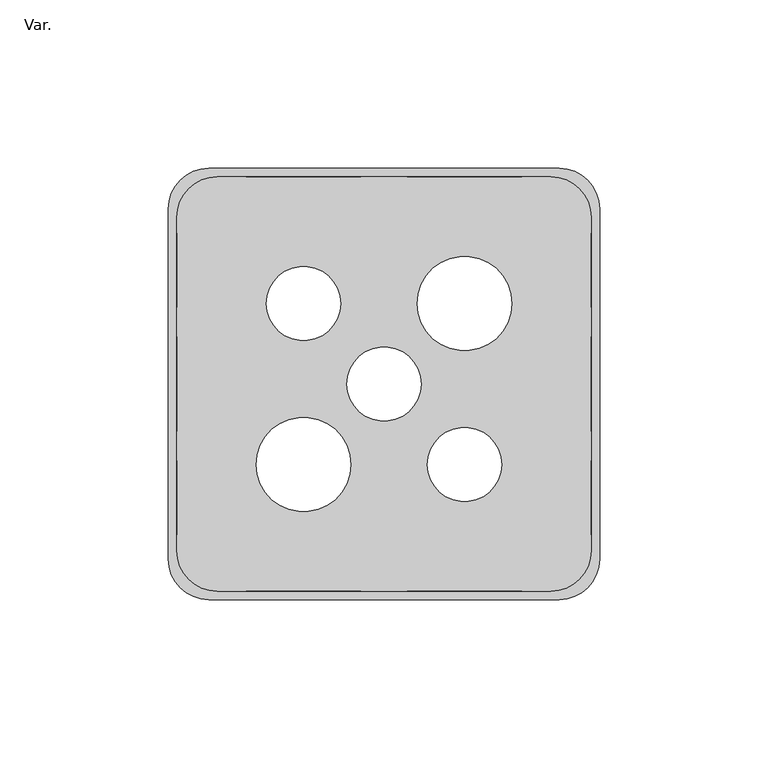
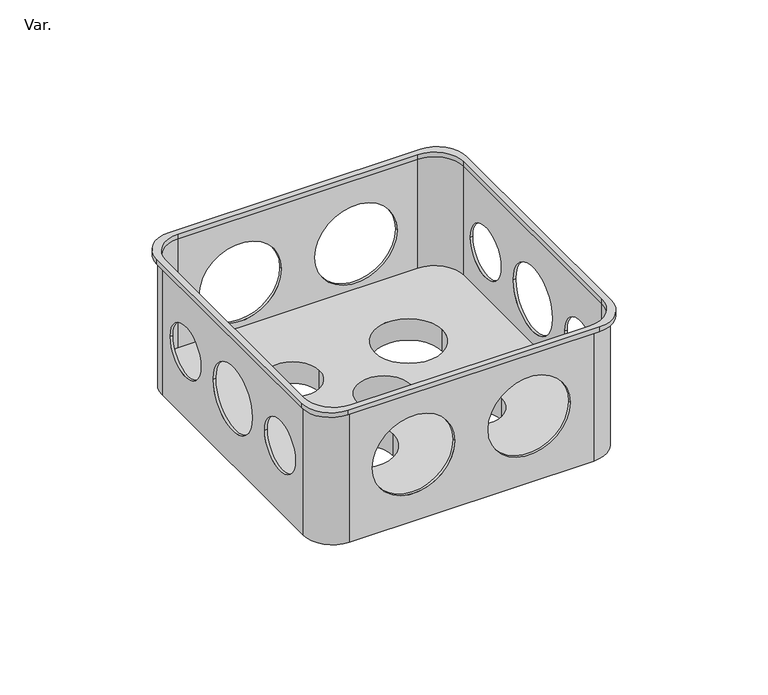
"""IFC4 building model written with IfcOpenShell, lengths in millimetres: cable carrier fitting geometry, PlastigamaWavin_Unionesdetubo_ConduitCajaCuadrada5x5 : Var.."""

from ifc_helpers import new_model, si_unit, point, frame, frame_2d, origin, place, context, project, spatial, polyline, circle_curve, trimmed, segment, composite_curve, outline, extrude, source, transform, mapped, element, save
from ifc_brep_helpers import plane_surface, cylinder_surface, revolved_surface, advanced_brep


def var_c12a9b82(model_context):
    return source(origin(), model_context, "Body", "SolidModel", [
        extrude(outline(composite_curve([segment(polyline([(-64.0, -52.0), (-64.0, 52.0)]), True, "CONTINUOUS"), segment(trimmed(circle_curve(frame_2d((-52.0, 52.0)), 12.0), [point((-64.0, 52.0))], [point((-52.0, 64.0))], False, "CARTESIAN"), True, "CONTINUOUS"), segment(polyline([(-52.0, 64.0), (52.0, 64.0)]), True, "CONTINUOUS"), segment(trimmed(circle_curve(frame_2d((52.0, 52.0)), 12.0), [point((52.0, 64.0))], [point((64.0, 52.0))], False, "CARTESIAN"), True, "CONTINUOUS"), segment(polyline([(64.0, 52.0), (64.0, -52.0)]), True, "CONTINUOUS"), segment(trimmed(circle_curve(frame_2d((52.0, -52.0)), 12.0), [point((64.0, -52.0))], [point((52.0, -64.0))], False, "CARTESIAN"), True, "CONTINUOUS"), segment(polyline([(52.0, -64.0), (-52.0, -64.0)]), True, "CONTINUOUS"), segment(trimmed(circle_curve(frame_2d((-52.0, -52.0)), 12.0), [point((-52.0, -64.0))], [point((-64.0, -52.0))], False, "CARTESIAN"), True, "CONTINUOUS")], self_intersect=False), holes=[composite_curve([segment(trimmed(circle_curve(frame_2d((-49.5, -49.5)), 12.0), [point((-61.5, -49.5))], [point((-49.5, -61.5))], True, "CARTESIAN"), True, "CONTINUOUS"), segment(polyline([(-49.5, -61.5), (49.5, -61.5)]), True, "CONTINUOUS"), segment(trimmed(circle_curve(frame_2d((49.5, -49.5)), 12.0), [point((49.5, -61.5))], [point((61.5, -49.5))], True, "CARTESIAN"), True, "CONTINUOUS"), segment(polyline([(61.5, -49.5), (61.5, 49.5)]), True, "CONTINUOUS"), segment(trimmed(circle_curve(frame_2d((49.5, 49.5)), 12.0), [point((61.5, 49.5))], [point((49.5, 61.5))], True, "CARTESIAN"), True, "CONTINUOUS"), segment(polyline([(49.5, 61.5), (-49.5, 61.5)]), True, "CONTINUOUS"), segment(trimmed(circle_curve(frame_2d((-49.5, 49.5)), 12.0), [point((-49.5, 61.5))], [point((-61.5, 49.5))], True, "CARTESIAN"), True, "CONTINUOUS"), segment(polyline([(-61.5, 49.5), (-61.5, -49.5)]), True, "CONTINUOUS")], self_intersect=False)]), frame((0.0, 0.0, 28.5), z_axis=(0.0, 0.0, 1.0), x_axis=(1.0, 0.0, 0.0)), (0.0, 0.0, 1.0), 2.0),
        advanced_brep(
        [(-62.5, -50.5, 28.5), (-50.5, -62.5, 28.5), (50.5, -62.5, 28.5), (62.5, -50.5, 28.5), (62.5, 50.5, 28.5), (50.5, 62.5, 28.5), (-50.5, 62.5, 28.5), (-62.5, 50.5, 28.5), (-49.5, -61.5, 28.5), (-61.5, -49.5, 28.5), (-61.5, 49.5, 28.5), (-49.5, 61.5, 28.5), (49.5, 61.5, 28.5), (61.5, 49.5, 28.5), (61.5, -49.5, 28.5), (49.5, -61.5, 28.5), (-62.5, -50.5, -28.5), (-62.5, 50.5, -28.5), (-50.5, 62.5, -28.5), (50.5, 62.5, -28.5), (62.5, 50.5, -28.5), (62.5, -50.5, -28.5), (50.5, -62.5, -28.5), (-50.5, -62.5, -28.5), (-37.9, -23.9, -28.5), (-9.9, -23.9, -28.5), (12.9, -23.9, -28.5), (34.9, -23.9, -28.5), (9.9, 23.9, -28.5), (37.9, 23.9, -28.5), (-34.9, 23.9, -28.5), (-12.9, 23.9, -28.5), (-11.0, 0.0, -28.5), (11.0, 0.0, -28.5), (-6.9, -62.5, 0.5), (-40.9, -62.5, 0.5), (40.9, -62.5, 0.5), (6.9, -62.5, 0.5), (62.5, -22.8, 0.5), (62.5, -44.8, 0.5), (62.5, 14.0, 0.5), (62.5, -14.0, 0.5), (62.5, 44.8, 0.5), (62.5, 22.8, 0.5), (-40.9, 62.5, 0.5), (-6.9, 62.5, 0.5), (6.9, 62.5, 0.5), (40.9, 62.5, 0.5), (-62.5, -44.8, 0.5), (-62.5, -22.8, 0.5), (-62.5, -14.0, 0.5), (-62.5, 14.0, 0.5), (-62.5, 22.8, 0.5), (-62.5, 44.8, 0.5), (-61.5, -49.5, -19.0915141), (-49.5, -61.5, -19.0915141), (49.5, -61.5, -19.0915141), (61.5, -49.5, -19.0915141), (61.5, 49.5, -19.0915141), (49.5, 61.5, -19.0915141), (-49.5, 61.5, -19.0915141), (-61.5, 49.5, -19.0915141), (-9.9, -23.9, -19.0915141), (-37.9, -23.9, -19.0915141), (34.9, -23.9, -19.0915141), (12.9, -23.9, -19.0915141), (37.9, 23.9, -19.0915141), (9.9, 23.9, -19.0915141), (-12.9, 23.9, -19.0915141), (-34.9, 23.9, -19.0915141), (11.0, 0.0, -19.0915141), (-11.0, 0.0, -19.0915141), (-40.9, -61.5, 0.5), (-6.9, -61.5, 0.5), (6.9, -61.5, 0.5), (40.9, -61.5, 0.5), (61.5, -44.8, 0.5), (61.5, -22.8, 0.5), (61.5, -14.0, 0.5), (61.5, 14.0, 0.5), (61.5, 22.8, 0.5), (61.5, 44.8, 0.5), (-6.9, 61.5, 0.5), (-40.9, 61.5, 0.5), (40.9, 61.5, 0.5), (6.9, 61.5, 0.5), (-61.5, -22.8, 0.5), (-61.5, -44.8, 0.5), (-61.5, 14.0, 0.5), (-61.5, -14.0, 0.5), (-61.5, 44.8, 0.5), (-61.5, 22.8, 0.5)],
        [
            (0, 1, circle_curve(frame((-50.5, -50.5, 28.5), z_axis=(0.0, 0.0, 1.0), x_axis=(1.0, 0.0, 0.0)), 12.0)),
            (1, 2),
            (2, 3, circle_curve(frame((50.5, -50.5, 28.5), z_axis=(0.0, 0.0, 1.0), x_axis=(1.0, 0.0, 0.0)), 12.0)),
            (3, 4),
            (4, 5, circle_curve(frame((50.5, 50.5, 28.5), z_axis=(0.0, 0.0, 1.0), x_axis=(1.0, 0.0, 0.0)), 12.0)),
            (5, 6),
            (6, 7, circle_curve(frame((-50.5, 50.5, 28.5), z_axis=(0.0, 0.0, 1.0), x_axis=(1.0, 0.0, 0.0)), 12.0)),
            (7, 0),
            (8, 9, circle_curve(frame((-49.5, -49.5, 28.5), z_axis=(0.0, 0.0, -1.0), x_axis=(1.0, 0.0, 0.0)), 12.0)),
            (9, 10),
            (10, 11, circle_curve(frame((-49.5, 49.5, 28.5), z_axis=(0.0, 0.0, -1.0), x_axis=(1.0, 0.0, 0.0)), 12.0)),
            (11, 12),
            (12, 13, circle_curve(frame((49.5, 49.5, 28.5), z_axis=(0.0, 0.0, -1.0), x_axis=(1.0, 0.0, 0.0)), 12.0)),
            (13, 14),
            (14, 15, circle_curve(frame((49.5, -49.5, 28.5), z_axis=(0.0, 0.0, -1.0), x_axis=(1.0, 0.0, 0.0)), 12.0)),
            (15, 8),
            (16, 17),
            (17, 18, circle_curve(frame((-50.5, 50.5, -28.5), z_axis=(0.0, 0.0, -1.0), x_axis=(1.0, 0.0, 0.0)), 12.0)),
            (18, 19),
            (19, 20, circle_curve(frame((50.5, 50.5, -28.5), z_axis=(0.0, 0.0, -1.0), x_axis=(1.0, 0.0, 0.0)), 12.0)),
            (20, 21),
            (21, 22, circle_curve(frame((50.5, -50.5, -28.5), z_axis=(0.0, 0.0, -1.0), x_axis=(1.0, 0.0, 0.0)), 12.0)),
            (22, 23),
            (23, 16, circle_curve(frame((-50.5, -50.5, -28.5), z_axis=(0.0, 0.0, -1.0), x_axis=(1.0, 0.0, 0.0)), 12.0)),
            (24, 25, circle_curve(frame((-23.9, -23.9, -28.5), z_axis=(0.0, 0.0, 1.0), x_axis=(1.0, 0.0, 0.0)), 14.0)),
            (25, 24, circle_curve(frame((-23.9, -23.9, -28.5), z_axis=(0.0, 0.0, 1.0), x_axis=(1.0, 0.0, 0.0)), 14.0)),
            (26, 27, circle_curve(frame((23.9, -23.9, -28.5), z_axis=(0.0, 0.0, 1.0), x_axis=(1.0, 0.0, 0.0)), 11.0)),
            (27, 26, circle_curve(frame((23.9, -23.9, -28.5), z_axis=(0.0, 0.0, 1.0), x_axis=(1.0, 0.0, 0.0)), 11.0)),
            (28, 29, circle_curve(frame((23.9, 23.9, -28.5), z_axis=(0.0, 0.0, 1.0), x_axis=(1.0, 0.0, 0.0)), 14.0)),
            (29, 28, circle_curve(frame((23.9, 23.9, -28.5), z_axis=(0.0, 0.0, 1.0), x_axis=(1.0, 0.0, 0.0)), 14.0)),
            (30, 31, circle_curve(frame((-23.9, 23.9, -28.5), z_axis=(0.0, 0.0, 1.0), x_axis=(1.0, 0.0, 0.0)), 11.0)),
            (31, 30, circle_curve(frame((-23.9, 23.9, -28.5), z_axis=(0.0, 0.0, 1.0), x_axis=(1.0, 0.0, 0.0)), 11.0)),
            (32, 33, circle_curve(frame((0.0, 0.0, -28.5), z_axis=(0.0, 0.0, 1.0), x_axis=(1.0, 0.0, 0.0)), 11.0)),
            (33, 32, circle_curve(frame((0.0, 0.0, -28.5), z_axis=(0.0, 0.0, 1.0), x_axis=(1.0, 0.0, 0.0)), 11.0)),
            (0, 16),
            (23, 1),
            (22, 2),
            (34, 35, circle_curve(frame((-23.9, -62.5, 0.5), z_axis=(0.0, 1.0, 0.0), x_axis=(1.0, 0.0, 0.0)), 17.0)),
            (35, 34, circle_curve(frame((-23.9, -62.5, 0.5), z_axis=(0.0, 1.0, 0.0), x_axis=(1.0, 0.0, 0.0)), 17.0)),
            (36, 37, circle_curve(frame((23.9, -62.5, 0.5), z_axis=(0.0, 1.0, 0.0), x_axis=(1.0, 0.0, 0.0)), 17.0)),
            (37, 36, circle_curve(frame((23.9, -62.5, 0.5), z_axis=(0.0, 1.0, 0.0), x_axis=(1.0, 0.0, 0.0)), 17.0)),
            (21, 3),
            (20, 4),
            (38, 39, circle_curve(frame((62.5, -33.8, 0.5), z_axis=(-1.0, 0.0, 0.0), x_axis=(0.0, 1.0, 0.0)), 11.0)),
            (39, 38, circle_curve(frame((62.5, -33.8, 0.5), z_axis=(-1.0, 0.0, 0.0), x_axis=(0.0, 1.0, 0.0)), 11.0)),
            (40, 41, circle_curve(frame((62.5, 0.0, 0.5), z_axis=(-1.0, 0.0, 0.0), x_axis=(0.0, 1.0, 0.0)), 14.0)),
            (41, 40, circle_curve(frame((62.5, 0.0, 0.5), z_axis=(-1.0, 0.0, 0.0), x_axis=(0.0, 1.0, 0.0)), 14.0)),
            (42, 43, circle_curve(frame((62.5, 33.8, 0.5), z_axis=(-1.0, 0.0, 0.0), x_axis=(0.0, 1.0, 0.0)), 11.0)),
            (43, 42, circle_curve(frame((62.5, 33.8, 0.5), z_axis=(-1.0, 0.0, 0.0), x_axis=(0.0, 1.0, 0.0)), 11.0)),
            (19, 5),
            (18, 6),
            (44, 45, circle_curve(frame((-23.9, 62.5, 0.5), z_axis=(0.0, -1.0, 0.0), x_axis=(1.0, 0.0, 0.0)), 17.0)),
            (45, 44, circle_curve(frame((-23.9, 62.5, 0.5), z_axis=(0.0, -1.0, 0.0), x_axis=(1.0, 0.0, 0.0)), 17.0)),
            (46, 47, circle_curve(frame((23.9, 62.5, 0.5), z_axis=(0.0, -1.0, 0.0), x_axis=(1.0, 0.0, 0.0)), 17.0)),
            (47, 46, circle_curve(frame((23.9, 62.5, 0.5), z_axis=(0.0, -1.0, 0.0), x_axis=(1.0, 0.0, 0.0)), 17.0)),
            (17, 7),
            (48, 49, circle_curve(frame((-62.5, -33.8, 0.5), z_axis=(1.0, 0.0, 0.0), x_axis=(0.0, 1.0, 0.0)), 11.0)),
            (49, 48, circle_curve(frame((-62.5, -33.8, 0.5), z_axis=(1.0, 0.0, 0.0), x_axis=(0.0, 1.0, 0.0)), 11.0)),
            (50, 51, circle_curve(frame((-62.5, 0.0, 0.5), z_axis=(1.0, 0.0, 0.0), x_axis=(0.0, 1.0, 0.0)), 14.0)),
            (51, 50, circle_curve(frame((-62.5, 0.0, 0.5), z_axis=(1.0, 0.0, 0.0), x_axis=(0.0, 1.0, 0.0)), 14.0)),
            (52, 53, circle_curve(frame((-62.5, 33.8, 0.5), z_axis=(1.0, 0.0, 0.0), x_axis=(0.0, 1.0, 0.0)), 11.0)),
            (53, 52, circle_curve(frame((-62.5, 33.8, 0.5), z_axis=(1.0, 0.0, 0.0), x_axis=(0.0, 1.0, 0.0)), 11.0)),
            (54, 55, circle_curve(frame((-49.5, -49.5, -19.0915141), z_axis=(0.0, 0.0, 1.0), x_axis=(1.0, 0.0, 0.0)), 12.0)),
            (55, 56),
            (56, 57, circle_curve(frame((49.5, -49.5, -19.0915141), z_axis=(0.0, 0.0, 1.0), x_axis=(1.0, 0.0, 0.0)), 12.0)),
            (57, 58),
            (58, 59, circle_curve(frame((49.5, 49.5, -19.0915141), z_axis=(0.0, 0.0, 1.0), x_axis=(1.0, 0.0, 0.0)), 12.0)),
            (59, 60),
            (60, 61, circle_curve(frame((-49.5, 49.5, -19.0915141), z_axis=(0.0, 0.0, 1.0), x_axis=(1.0, 0.0, 0.0)), 12.0)),
            (61, 54),
            (62, 63, circle_curve(frame((-23.9, -23.9, -19.0915141), z_axis=(0.0, 0.0, -1.0), x_axis=(1.0, 0.0, 0.0)), 14.0)),
            (63, 62, circle_curve(frame((-23.9, -23.9, -19.0915141), z_axis=(0.0, 0.0, -1.0), x_axis=(1.0, 0.0, 0.0)), 14.0)),
            (64, 65, circle_curve(frame((23.9, -23.9, -19.0915141), z_axis=(0.0, 0.0, -1.0), x_axis=(1.0, 0.0, 0.0)), 11.0)),
            (65, 64, circle_curve(frame((23.9, -23.9, -19.0915141), z_axis=(0.0, 0.0, -1.0), x_axis=(1.0, 0.0, 0.0)), 11.0)),
            (66, 67, circle_curve(frame((23.9, 23.9, -19.0915141), z_axis=(0.0, 0.0, -1.0), x_axis=(1.0, 0.0, 0.0)), 14.0)),
            (67, 66, circle_curve(frame((23.9, 23.9, -19.0915141), z_axis=(0.0, 0.0, -1.0), x_axis=(1.0, 0.0, 0.0)), 14.0)),
            (68, 69, circle_curve(frame((-23.9, 23.9, -19.0915141), z_axis=(0.0, 0.0, -1.0), x_axis=(1.0, 0.0, 0.0)), 11.0)),
            (69, 68, circle_curve(frame((-23.9, 23.9, -19.0915141), z_axis=(0.0, 0.0, -1.0), x_axis=(1.0, 0.0, 0.0)), 11.0)),
            (70, 71, circle_curve(frame((0.0, 0.0, -19.0915141), z_axis=(0.0, 0.0, -1.0), x_axis=(1.0, 0.0, 0.0)), 11.0)),
            (71, 70, circle_curve(frame((0.0, 0.0, -19.0915141), z_axis=(0.0, 0.0, -1.0), x_axis=(1.0, 0.0, 0.0)), 11.0)),
            (54, 9),
            (8, 55),
            (15, 56),
            (72, 73, circle_curve(frame((-23.9, -61.5, 0.5), z_axis=(0.0, -1.0, 0.0), x_axis=(1.0, 0.0, 0.0)), 17.0)),
            (73, 72, circle_curve(frame((-23.9, -61.5, 0.5), z_axis=(0.0, -1.0, 0.0), x_axis=(1.0, 0.0, 0.0)), 17.0)),
            (74, 75, circle_curve(frame((23.9, -61.5, 0.5), z_axis=(0.0, -1.0, 0.0), x_axis=(1.0, 0.0, 0.0)), 17.0)),
            (75, 74, circle_curve(frame((23.9, -61.5, 0.5), z_axis=(0.0, -1.0, 0.0), x_axis=(1.0, 0.0, 0.0)), 17.0)),
            (14, 57),
            (13, 58),
            (76, 77, circle_curve(frame((61.5, -33.8, 0.5), z_axis=(1.0, 0.0, 0.0), x_axis=(0.0, 1.0, 0.0)), 11.0)),
            (77, 76, circle_curve(frame((61.5, -33.8, 0.5), z_axis=(1.0, 0.0, 0.0), x_axis=(0.0, 1.0, 0.0)), 11.0)),
            (78, 79, circle_curve(frame((61.5, 0.0, 0.5), z_axis=(1.0, 0.0, 0.0), x_axis=(0.0, 1.0, 0.0)), 14.0)),
            (79, 78, circle_curve(frame((61.5, 0.0, 0.5), z_axis=(1.0, 0.0, 0.0), x_axis=(0.0, 1.0, 0.0)), 14.0)),
            (80, 81, circle_curve(frame((61.5, 33.8, 0.5), z_axis=(1.0, 0.0, 0.0), x_axis=(0.0, 1.0, 0.0)), 11.0)),
            (81, 80, circle_curve(frame((61.5, 33.8, 0.5), z_axis=(1.0, 0.0, 0.0), x_axis=(0.0, 1.0, 0.0)), 11.0)),
            (12, 59),
            (11, 60),
            (82, 83, circle_curve(frame((-23.9, 61.5, 0.5), z_axis=(0.0, 1.0, 0.0), x_axis=(1.0, 0.0, 0.0)), 17.0)),
            (83, 82, circle_curve(frame((-23.9, 61.5, 0.5), z_axis=(0.0, 1.0, 0.0), x_axis=(1.0, 0.0, 0.0)), 17.0)),
            (84, 85, circle_curve(frame((23.9, 61.5, 0.5), z_axis=(0.0, 1.0, 0.0), x_axis=(1.0, 0.0, 0.0)), 17.0)),
            (85, 84, circle_curve(frame((23.9, 61.5, 0.5), z_axis=(0.0, 1.0, 0.0), x_axis=(1.0, 0.0, 0.0)), 17.0)),
            (10, 61),
            (86, 87, circle_curve(frame((-61.5, -33.8, 0.5), z_axis=(-1.0, 0.0, 0.0), x_axis=(0.0, 1.0, 0.0)), 11.0)),
            (87, 86, circle_curve(frame((-61.5, -33.8, 0.5), z_axis=(-1.0, 0.0, 0.0), x_axis=(0.0, 1.0, 0.0)), 11.0)),
            (88, 89, circle_curve(frame((-61.5, 0.0, 0.5), z_axis=(-1.0, 0.0, 0.0), x_axis=(0.0, 1.0, 0.0)), 14.0)),
            (89, 88, circle_curve(frame((-61.5, 0.0, 0.5), z_axis=(-1.0, 0.0, 0.0), x_axis=(0.0, 1.0, 0.0)), 14.0)),
            (90, 91, circle_curve(frame((-61.5, 33.8, 0.5), z_axis=(-1.0, 0.0, 0.0), x_axis=(0.0, 1.0, 0.0)), 11.0)),
            (91, 90, circle_curve(frame((-61.5, 33.8, 0.5), z_axis=(-1.0, 0.0, 0.0), x_axis=(0.0, 1.0, 0.0)), 11.0)),
            (72, 35),
            (34, 73),
            (44, 83),
            (82, 45),
            (74, 37),
            (36, 75),
            (46, 85),
            (84, 47),
            (76, 39),
            (38, 77),
            (48, 87),
            (86, 49),
            (78, 41),
            (40, 79),
            (50, 89),
            (88, 51),
            (80, 43),
            (42, 81),
            (52, 91),
            (90, 53),
            (24, 63),
            (62, 25),
            (26, 65),
            (64, 27),
            (28, 67),
            (66, 29),
            (30, 69),
            (68, 31),
            (32, 71),
            (70, 33),
        ],
        [
            plane_surface(frame((-38.5, -50.5, 28.5), z_axis=(0.0, 0.0, 1.0), x_axis=(0.0, 1.0, 0.0))),
            plane_surface(frame((-38.5, -50.5, -28.5), z_axis=(0.0, 0.0, -1.0), x_axis=(0.0, -1.0, 0.0))),
            cylinder_surface(frame((-50.5, -50.5, -28.5), z_axis=(0.0, 0.0, 1.0), x_axis=(1.0, 0.0, 0.0)), 12.0),
            plane_surface(frame((-50.5, -62.5, 28.5), z_axis=(0.0, -1.0, 0.0), x_axis=(0.0, 0.0, -1.0))),
            cylinder_surface(frame((50.5, -50.5, -28.5), z_axis=(0.0, 0.0, 1.0), x_axis=(1.0, 0.0, 0.0)), 12.0),
            plane_surface(frame((62.5, -50.5, 28.5), z_axis=(1.0, 0.0, 0.0), x_axis=(0.0, 0.0, -1.0))),
            cylinder_surface(frame((50.5, 50.5, -28.5), z_axis=(0.0, 0.0, 1.0), x_axis=(1.0, 0.0, 0.0)), 12.0),
            plane_surface(frame((50.5, 62.5, 28.5), z_axis=(0.0, 1.0, 0.0), x_axis=(0.0, 0.0, -1.0))),
            cylinder_surface(frame((-50.5, 50.5, -28.5), z_axis=(0.0, 0.0, 1.0), x_axis=(1.0, 0.0, 0.0)), 12.0),
            plane_surface(frame((-62.5, 50.5, 28.5), z_axis=(-1.0, 0.0, 0.0), x_axis=(0.0, 0.0, -1.0))),
            plane_surface(frame((-37.5, -49.5, -19.0915141), z_axis=(0.0, 0.0, 1.0), x_axis=(0.0, -1.0, 0.0))),
            revolved_surface(polyline([(-37.5, -49.5, 28.499999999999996), (-37.5, -49.5, -19.0915141)]), (-49.5, -49.5, -19.0915141), (0.0, 0.0, 1.0)),
            plane_surface(frame((-49.5, -61.5, 30.5), z_axis=(0.0, 1.0, 0.0), x_axis=(0.0, 0.0, -1.0))),
            revolved_surface(polyline([(61.5, -49.5, 28.499999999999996), (61.5, -49.5, -19.0915141)]), (49.5, -49.5, -19.0915141), (0.0, 0.0, 1.0)),
            plane_surface(frame((61.5, -49.5, 30.5), z_axis=(-1.0, 0.0, 0.0), x_axis=(0.0, 0.0, -1.0))),
            revolved_surface(polyline([(61.5, 49.5, 28.499999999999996), (61.5, 49.5, -19.0915141)]), (49.5, 49.5, -19.0915141), (0.0, 0.0, 1.0)),
            plane_surface(frame((49.5, 61.5, 30.5), z_axis=(0.0, -1.0, 0.0), x_axis=(0.0, 0.0, -1.0))),
            revolved_surface(polyline([(-37.5, 49.5, 28.499999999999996), (-37.5, 49.5, -19.0915141)]), (-49.5, 49.5, -19.0915141), (0.0, 0.0, 1.0)),
            plane_surface(frame((-61.5, 49.5, 30.5), z_axis=(1.0, 0.0, 0.0), x_axis=(0.0, 0.0, -1.0))),
            revolved_surface(polyline([(-6.899999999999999, -62.5, 0.5), (-6.899999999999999, -61.5, 0.5)]), (-23.9, 62.5, 0.5), (0.0, -1.0, 0.0)),
            revolved_surface(polyline([(-6.899999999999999, 61.5, 0.5), (-6.899999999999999, 62.5, 0.5)]), (-23.9, 62.5, 0.5), (0.0, -1.0, 0.0)),
            revolved_surface(polyline([(40.9, -62.5, 0.5), (40.9, -61.5, 0.5)]), (23.9, 0.0, 0.5), (0.0, -1.0, 0.0)),
            revolved_surface(polyline([(40.9, 61.5, 0.5), (40.9, 62.5, 0.5)]), (23.9, 0.0, 0.5), (0.0, -1.0, 0.0)),
            revolved_surface(polyline([(62.5, -22.799999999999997, 0.5), (61.5, -22.799999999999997, 0.5)]), (-62.5, -33.8, 0.5), (1.0, 0.0, 0.0)),
            revolved_surface(polyline([(-61.5, -22.799999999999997, 0.5), (-62.5, -22.799999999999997, 0.5)]), (-62.5, -33.8, 0.5), (1.0, 0.0, 0.0)),
            revolved_surface(polyline([(62.5, 14.0, 0.5), (61.5, 14.0, 0.5)]), (0.0, 0.0, 0.5), (1.0, 0.0, 0.0)),
            revolved_surface(polyline([(-61.5, 14.0, 0.5), (-62.5, 14.0, 0.5)]), (0.0, 0.0, 0.5), (1.0, 0.0, 0.0)),
            revolved_surface(polyline([(62.5, 44.8, 0.5), (61.5, 44.8, 0.5)]), (0.0, 33.8, 0.5), (1.0, 0.0, 0.0)),
            revolved_surface(polyline([(-61.5, 44.8, 0.5), (-62.5, 44.8, 0.5)]), (0.0, 33.8, 0.5), (1.0, 0.0, 0.0)),
            revolved_surface(polyline([(-9.899999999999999, -23.9, -19.0915141), (-9.899999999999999, -23.9, -28.5)]), (-23.9, -23.9, -28.5), (0.0, 0.0, 1.0)),
            revolved_surface(polyline([(34.9, -23.9, -19.0915141), (34.9, -23.9, -28.5)]), (23.9, -23.9, 0.0), (0.0, 0.0, 1.0)),
            revolved_surface(polyline([(37.9, 23.9, -19.0915141), (37.9, 23.9, -28.5)]), (23.9, 23.9, 0.0), (0.0, 0.0, 1.0)),
            revolved_surface(polyline([(-12.899999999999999, 23.9, -19.0915141), (-12.899999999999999, 23.9, -28.5)]), (-23.9, 23.9, 0.0), (0.0, 0.0, 1.0)),
            revolved_surface(polyline([(11.0, 0.0, -19.0915141), (11.0, 0.0, -28.5)]), (0.0, 0.0, 0.0), (0.0, 0.0, 1.0)),
        ],
        [
            (0, [[1, 2, 3, 4, 5, 6, 7, 8], [9, 10, 11, 12, 13, 14, 15, 16]]),
            (1, [[17, 18, 19, 20, 21, 22, 23, 24], [25, 26], [27, 28], [29, 30], [31, 32], [33, 34]]),
            (2, [[-1, 35, -24, 36]]),
            (3, [[-2, -36, -23, 37], [38, 39], [40, 41]]),
            (4, [[-3, -37, -22, 42]]),
            (5, [[-4, -42, -21, 43], [44, 45], [46, 47], [48, 49]]),
            (6, [[-5, -43, -20, 50]]),
            (7, [[-6, -50, -19, 51], [52, 53], [54, 55]]),
            (8, [[-7, -51, -18, 56]]),
            (9, [[-8, -56, -17, -35], [57, 58], [59, 60], [61, 62]]),
            (10, [[63, 64, 65, 66, 67, 68, 69, 70], [71, 72], [73, 74], [75, 76], [77, 78], [79, 80]]),
            (11, [[-63, 81, -9, 82]]),
            (12, [[-64, -82, -16, 83], [84, 85], [86, 87]]),
            (13, [[-65, -83, -15, 88]]),
            (14, [[-66, -88, -14, 89], [90, 91], [92, 93], [94, 95]]),
            (15, [[-67, -89, -13, 96]]),
            (16, [[-68, -96, -12, 97], [98, 99], [100, 101]]),
            (17, [[-69, -97, -11, 102]]),
            (18, [[-70, -102, -10, -81], [103, 104], [105, 106], [107, 108]]),
            (19, [[109, -38, 110, -84]]),
            (20, [[111, -98, 112, -52]]),
            (19, [[-109, -85, -110, -39]]),
            (20, [[-111, -53, -112, -99]]),
            (21, [[113, -40, 114, -86]]),
            (22, [[115, -100, 116, -54]]),
            (21, [[-113, -87, -114, -41]]),
            (22, [[-115, -55, -116, -101]]),
            (23, [[117, -44, 118, -90]]),
            (24, [[119, -103, 120, -57]]),
            (23, [[-117, -91, -118, -45]]),
            (24, [[-119, -58, -120, -104]]),
            (25, [[121, -46, 122, -92]]),
            (26, [[123, -105, 124, -59]]),
            (25, [[-121, -93, -122, -47]]),
            (26, [[-123, -60, -124, -106]]),
            (27, [[125, -48, 126, -94]]),
            (28, [[127, -107, 128, -61]]),
            (27, [[-125, -95, -126, -49]]),
            (28, [[-127, -62, -128, -108]]),
            (29, [[129, -71, 130, -25]]),
            (29, [[-129, -26, -130, -72]]),
            (30, [[131, -73, 132, -27]]),
            (30, [[-131, -28, -132, -74]]),
            (31, [[133, -75, 134, -29]]),
            (31, [[-133, -30, -134, -76]]),
            (32, [[135, -77, 136, -31]]),
            (32, [[-135, -32, -136, -78]]),
            (33, [[137, -79, 138, -33]]),
            (33, [[-137, -34, -138, -80]]),
        ],
    ),
    ])


if __name__ == "__main__":
    model = new_model("IFC4")
    model_context = context("Model", 3, world=origin())
    ifc_project = project(units=[si_unit("LENGTHUNIT", "METRE", prefix="MILLI")], contexts=[model_context])
    site = spatial("IfcSite", under=ifc_project)
    building = spatial("IfcBuilding", under=site)
    placement = place(None, origin())
    var_shape = var_c12a9b82(model_context)
    element("IfcCableCarrierFitting", 1, ObjectType="PlastigamaWavin_Unionesdetubo_ConduitCajaCuadrada5x5 : Var.", at=placement, inside=building, context=model_context, shape_type="MappedRepresentation", body=[
        mapped(var_shape, transform((0.0, 0.0, 0.0), x_axis=(1.0, 0.0, 0.0), y_axis=(0.0, 1.0, 0.0), z_axis=(0.0, 0.0, 1.0))),
    ])
    save(model, "model.ifc")
